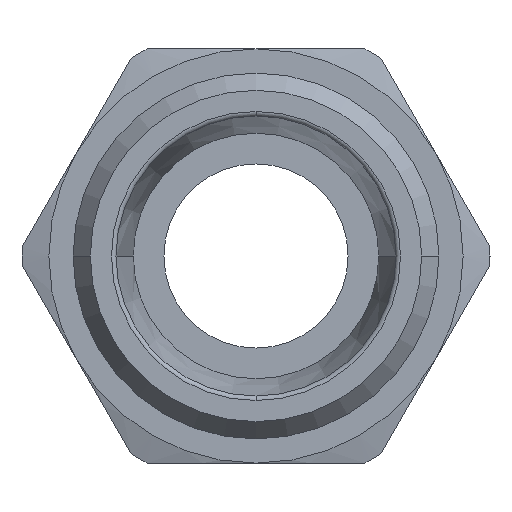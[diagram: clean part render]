
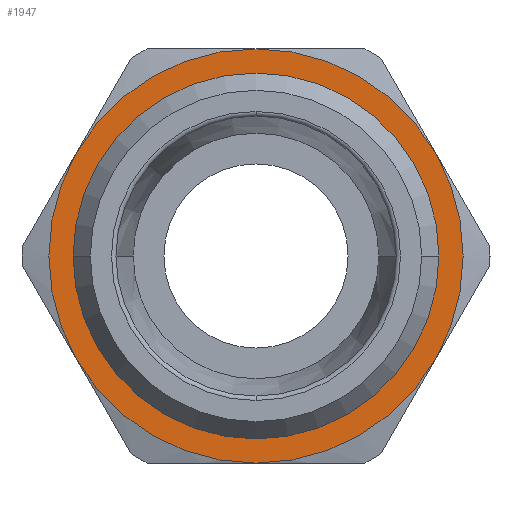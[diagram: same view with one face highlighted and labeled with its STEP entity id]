
A CAD part, left-side view. The second image highlights one B-rep face of the part: STEP entity #1947.
In plain terms, the highlighted planar face has unit normal (-1, 0, 0) as drawn and (0, 0, 1) by its records, which use the part's own axes.
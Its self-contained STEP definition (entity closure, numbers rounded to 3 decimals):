
#857=CARTESIAN_POINT('',(-11.8,0.,5.0));
#858=VERTEX_POINT('',#857);
#884=CARTESIAN_POINT('',(11.8,0.,5.0));
#885=VERTEX_POINT('',#884);
#893=CARTESIAN_POINT('',(0.,0.,5.0));
#894=DIRECTION('',(0.0,0.0,1.0));
#895=DIRECTION('',(-1.0,0.0,0.0));
#896=AXIS2_PLACEMENT_3D('',#893,#894,#895);
#897=CIRCLE('',#896,11.8);
#898=EDGE_CURVE('',#885,#858,#897,.T.);
#1827=CARTESIAN_POINT('',(0.,-11.8,5.));
#1828=VERTEX_POINT('',#1827);
#1829=CARTESIAN_POINT('',(0.,0.,5.0));
#1830=DIRECTION('',(0.0,0.0,1.0));
#1831=DIRECTION('',(-1.0,0.0,0.0));
#1832=AXIS2_PLACEMENT_3D('',#1829,#1830,#1831);
#1833=CIRCLE('',#1832,11.8);
#1834=EDGE_CURVE('',#858,#1828,#1833,.T.);
#1836=CARTESIAN_POINT('',(0.,0.,5.0));
#1837=DIRECTION('',(0.0,0.0,1.0));
#1838=DIRECTION('',(-1.0,0.0,0.0));
#1839=AXIS2_PLACEMENT_3D('',#1836,#1837,#1838);
#1840=CIRCLE('',#1839,11.8);
#1841=EDGE_CURVE('',#1828,#885,#1840,.T.);
#1881=CARTESIAN_POINT('',(0.,0.,5.0));
#1882=DIRECTION('',(0.0,0.0,1.0));
#1883=DIRECTION('',(1.0,0.0,0.0));
#1884=AXIS2_PLACEMENT_3D('',#1881,#1882,#1883);
#1885=PLANE('',#1884);
#1886=CARTESIAN_POINT('',(6.75,-11.691,5.));
#1887=VERTEX_POINT('',#1886);
#1888=CARTESIAN_POINT('',(13.5,0.0,5.));
#1889=VERTEX_POINT('',#1888);
#1890=CARTESIAN_POINT('',(0.,0.0,5.0));
#1891=DIRECTION('',(0.0,0.0,1.0));
#1892=DIRECTION('',(1.0,0.0,0.0));
#1893=AXIS2_PLACEMENT_3D('',#1890,#1891,#1892);
#1894=CIRCLE('',#1893,13.5);
#1895=EDGE_CURVE('',#1887,#1889,#1894,.T.);
#1896=ORIENTED_EDGE('',*,*,#1895,.T.);
#1897=CARTESIAN_POINT('',(6.75,11.691,5.));
#1898=VERTEX_POINT('',#1897);
#1899=CARTESIAN_POINT('',(0.,0.0,5.0));
#1900=DIRECTION('',(0.0,0.0,1.0));
#1901=DIRECTION('',(1.0,0.0,0.0));
#1902=AXIS2_PLACEMENT_3D('',#1899,#1900,#1901);
#1903=CIRCLE('',#1902,13.5);
#1904=EDGE_CURVE('',#1889,#1898,#1903,.T.);
#1905=ORIENTED_EDGE('',*,*,#1904,.T.);
#1906=CARTESIAN_POINT('',(-6.75,11.691,5.));
#1907=VERTEX_POINT('',#1906);
#1908=CARTESIAN_POINT('',(0.,0.0,5.0));
#1909=DIRECTION('',(0.0,0.0,1.0));
#1910=DIRECTION('',(1.0,0.0,0.0));
#1911=AXIS2_PLACEMENT_3D('',#1908,#1909,#1910);
#1912=CIRCLE('',#1911,13.5);
#1913=EDGE_CURVE('',#1898,#1907,#1912,.T.);
#1914=ORIENTED_EDGE('',*,*,#1913,.T.);
#1915=CARTESIAN_POINT('',(-13.5,0.,5.));
#1916=VERTEX_POINT('',#1915);
#1917=CARTESIAN_POINT('',(0.,0.0,5.0));
#1918=DIRECTION('',(0.0,0.0,1.0));
#1919=DIRECTION('',(1.0,0.0,0.0));
#1920=AXIS2_PLACEMENT_3D('',#1917,#1918,#1919);
#1921=CIRCLE('',#1920,13.5);
#1922=EDGE_CURVE('',#1907,#1916,#1921,.T.);
#1923=ORIENTED_EDGE('',*,*,#1922,.T.);
#1924=CARTESIAN_POINT('',(-6.75,-11.691,5.));
#1925=VERTEX_POINT('',#1924);
#1926=CARTESIAN_POINT('',(0.,0.0,5.0));
#1927=DIRECTION('',(0.0,0.0,1.0));
#1928=DIRECTION('',(1.0,0.0,0.0));
#1929=AXIS2_PLACEMENT_3D('',#1926,#1927,#1928);
#1930=CIRCLE('',#1929,13.5);
#1931=EDGE_CURVE('',#1916,#1925,#1930,.T.);
#1932=ORIENTED_EDGE('',*,*,#1931,.T.);
#1933=CARTESIAN_POINT('',(0.,0.0,5.0));
#1934=DIRECTION('',(0.0,0.0,1.0));
#1935=DIRECTION('',(1.0,0.0,0.0));
#1936=AXIS2_PLACEMENT_3D('',#1933,#1934,#1935);
#1937=CIRCLE('',#1936,13.5);
#1938=EDGE_CURVE('',#1925,#1887,#1937,.T.);
#1939=ORIENTED_EDGE('',*,*,#1938,.T.);
#1940=EDGE_LOOP('',(#1896,#1905,#1914,#1923,#1932,#1939));
#1941=FACE_OUTER_BOUND('',#1940,.T.);
#1942=ORIENTED_EDGE('',*,*,#1841,.F.);
#1943=ORIENTED_EDGE('',*,*,#1834,.F.);
#1944=ORIENTED_EDGE('',*,*,#898,.F.);
#1945=EDGE_LOOP('',(#1942,#1943,#1944));
#1946=FACE_BOUND('',#1945,.T.);
#1947=ADVANCED_FACE('',(#1941,#1946),#1885,.T.);
